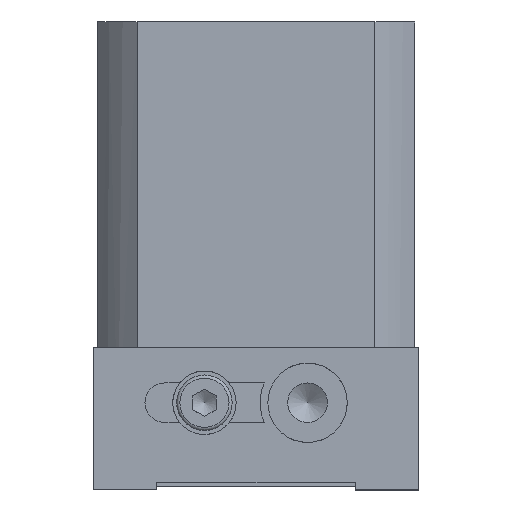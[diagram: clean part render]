
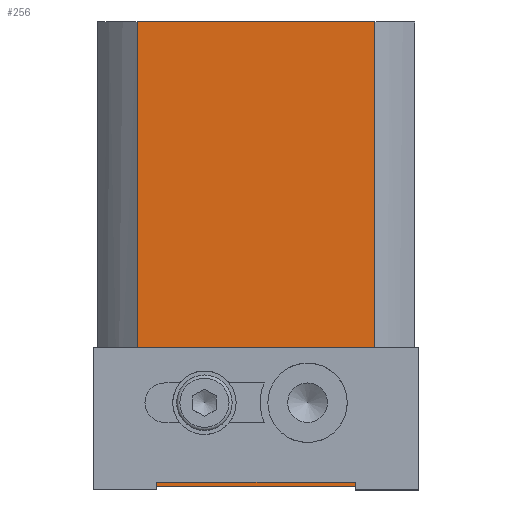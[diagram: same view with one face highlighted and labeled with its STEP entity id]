
A CAD part, left-side view. The second image highlights one B-rep face of the part: STEP entity #256.
In plain terms, the highlighted planar face has unit normal (-1, 0, 0).
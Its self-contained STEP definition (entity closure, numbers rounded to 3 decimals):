
#171=CARTESIAN_POINT('',(-20.,26.5,-43.));
#172=VERTEX_POINT('',#171);
#173=CARTESIAN_POINT('',(-20.,26.5,-48.));
#174=DIRECTION('',(1.0,0.0,0.0));
#175=DIRECTION('',(0.0,0.0,-1.0));
#176=AXIS2_PLACEMENT_3D('',#173,#174,#175);
#177=CIRCLE('',#176,5.0);
#178=EDGE_CURVE('',#172,#172,#177,.T.);
#203=CARTESIAN_POINT('',(-20.,35.,0.0));
#204=DIRECTION('',(-1.0,0.0,0.0));
#205=DIRECTION('',(0.0,0.0,1.0));
#206=AXIS2_PLACEMENT_3D('',#203,#204,#205);
#207=PLANE('',#206);
#208=CARTESIAN_POINT('',(-20.,5.,0.0));
#209=VERTEX_POINT('',#208);
#210=CARTESIAN_POINT('',(-20.,5.,-58.5));
#211=VERTEX_POINT('',#210);
#212=CARTESIAN_POINT('',(-20.,5.,0.0));
#213=DIRECTION('',(0.0,0.0,-1.0));
#214=VECTOR('',#213,58.5);
#215=LINE('',#212,#214);
#216=EDGE_CURVE('',#209,#211,#215,.T.);
#217=ORIENTED_EDGE('',*,*,#216,.F.);
#218=CARTESIAN_POINT('',(-20.,35.,0.0));
#219=VERTEX_POINT('',#218);
#220=CARTESIAN_POINT('',(-20.,35.,0.0));
#221=DIRECTION('',(0.0,-1.0,0.0));
#222=VECTOR('',#221,30.);
#223=LINE('',#220,#222);
#224=EDGE_CURVE('',#219,#209,#223,.T.);
#225=ORIENTED_EDGE('',*,*,#224,.F.);
#226=CARTESIAN_POINT('',(-20.,35.,-58.5));
#227=VERTEX_POINT('',#226);
#228=CARTESIAN_POINT('',(-20.,35.,0.0));
#229=DIRECTION('',(0.0,0.0,-1.0));
#230=VECTOR('',#229,58.5);
#231=LINE('',#228,#230);
#232=EDGE_CURVE('',#219,#227,#231,.T.);
#233=ORIENTED_EDGE('',*,*,#232,.T.);
#234=CARTESIAN_POINT('',(-20.,35.,-58.5));
#235=DIRECTION('',(0.0,-1.0,0.0));
#236=VECTOR('',#235,30.);
#237=LINE('',#234,#236);
#238=EDGE_CURVE('',#227,#211,#237,.T.);
#239=ORIENTED_EDGE('',*,*,#238,.T.);
#240=EDGE_LOOP('',(#217,#225,#233,#239));
#241=FACE_OUTER_BOUND('',#240,.T.);
#242=CARTESIAN_POINT('',(-20.,13.5,-43.));
#243=VERTEX_POINT('',#242);
#244=CARTESIAN_POINT('',(-20.,13.5,-48.));
#245=DIRECTION('',(1.0,0.0,0.0));
#246=DIRECTION('',(0.0,0.0,-1.0));
#247=AXIS2_PLACEMENT_3D('',#244,#245,#246);
#248=CIRCLE('',#247,5.0);
#249=EDGE_CURVE('',#243,#243,#248,.T.);
#250=ORIENTED_EDGE('',*,*,#249,.T.);
#251=EDGE_LOOP('',(#250));
#252=FACE_BOUND('',#251,.T.);
#253=ORIENTED_EDGE('',*,*,#178,.T.);
#254=EDGE_LOOP('',(#253));
#255=FACE_BOUND('',#254,.T.);
#256=ADVANCED_FACE('',(#241,#252,#255),#207,.T.);
